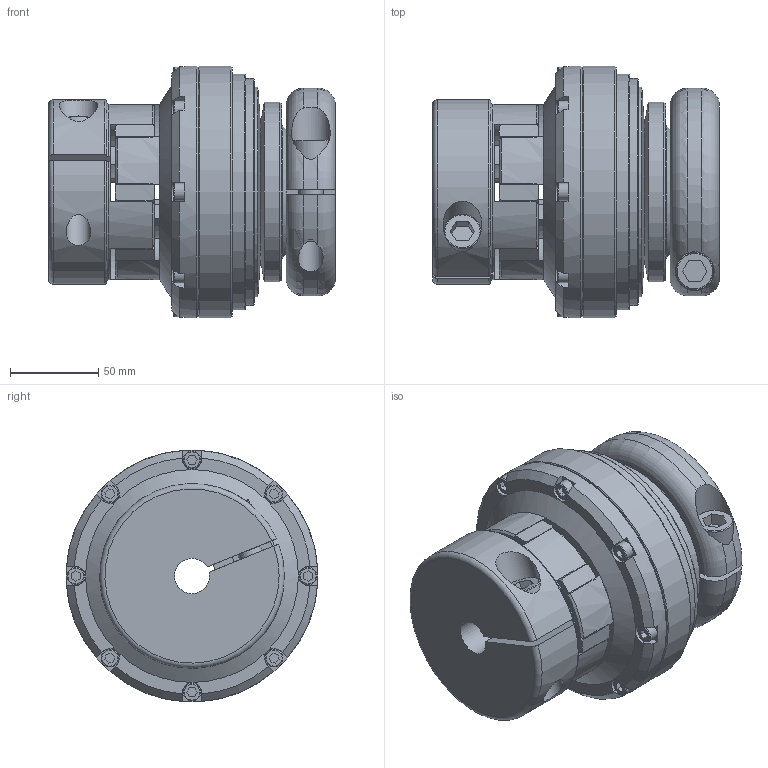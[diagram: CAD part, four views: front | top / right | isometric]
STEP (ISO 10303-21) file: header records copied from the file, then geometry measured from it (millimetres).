
FILE_DESCRIPTION(/* description */ ('Unknown'),/* implementation_level */ '2;1');
FILE_NAME(/* name */ 'SKVA-EK 400',/* time_stamp */ '2025-02-12T12:27:13+01:00',/* author */ ('Unknown'),/* organization */ ('Unknown'),/* preprocessor_version */ 'ST-DEVELOPER v18.102',/* originating_system */ 'Solid Edge',/* authorisation */ 'Unknown');
FILE_SCHEMA (('AUTOMOTIVE_DESIGN {1 0 10303 214 3 1 1}'));
Length unit declared in the file: millimetre
Products named in the file (1): SKVA-EK 400
Bounding box: 163 x 143 x 143 mm (x, y, z)
Volume: 1551540.1 mm3; surface area: 166582.4 mm2
Topology: 2 solids, 3 shells, 368 faces, 955 edges, 607 vertices
Faces by surface type: plane 150, bspline 108, cylinder 61, cone 34, torus 15
Full cylindrical faces by diameter (mm): 10 x8, 14 x6, 21 x2, 22 x2, 27 x1, 50.4 x1, 75 x1, 102 x1, 119 x1, 129 x1, 134 x1, 143 x2
Entity records: 13009 total; most frequent: CARTESIAN_POINT 5042, ORIENTED_EDGE 1776, DIRECTION 1312, EDGE_CURVE 888, VERTEX_POINT 587, AXIS2_PLACEMENT_3D 475, EDGE_LOOP 449, FACE_BOUND 449
